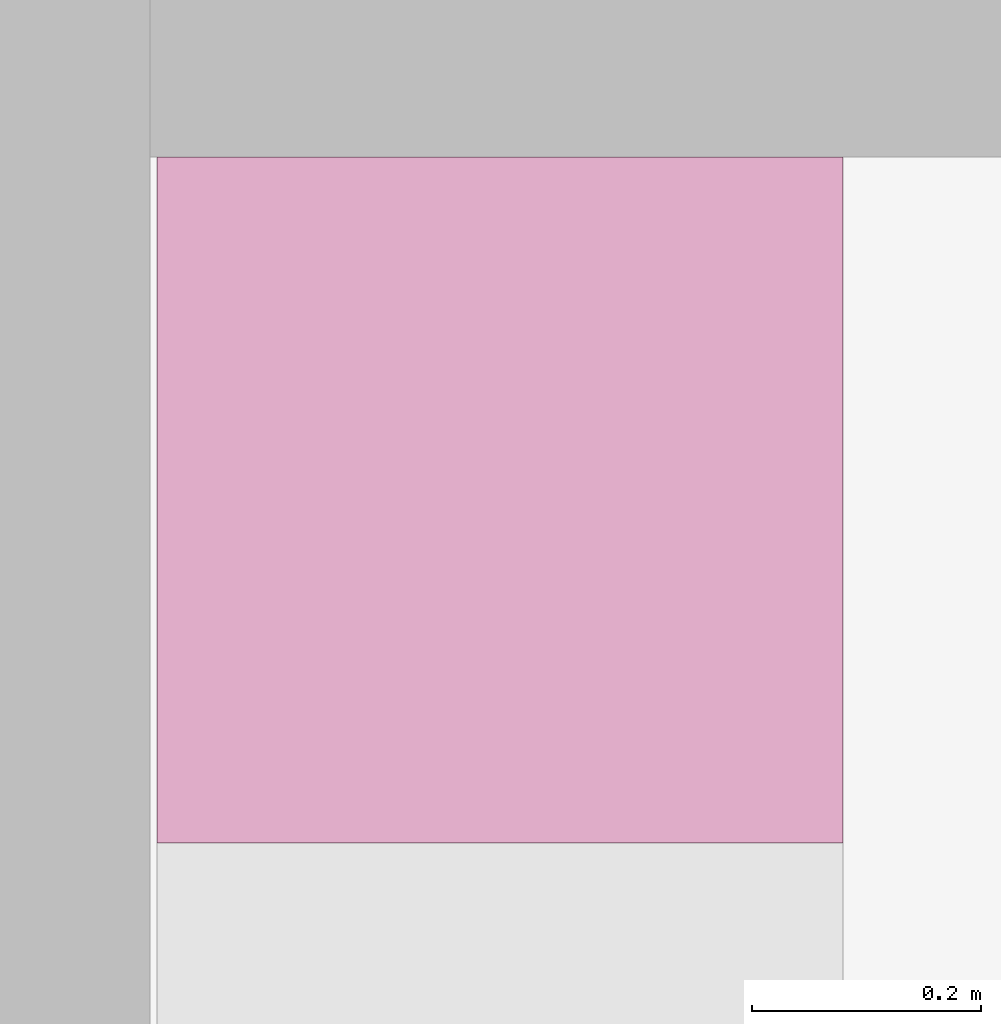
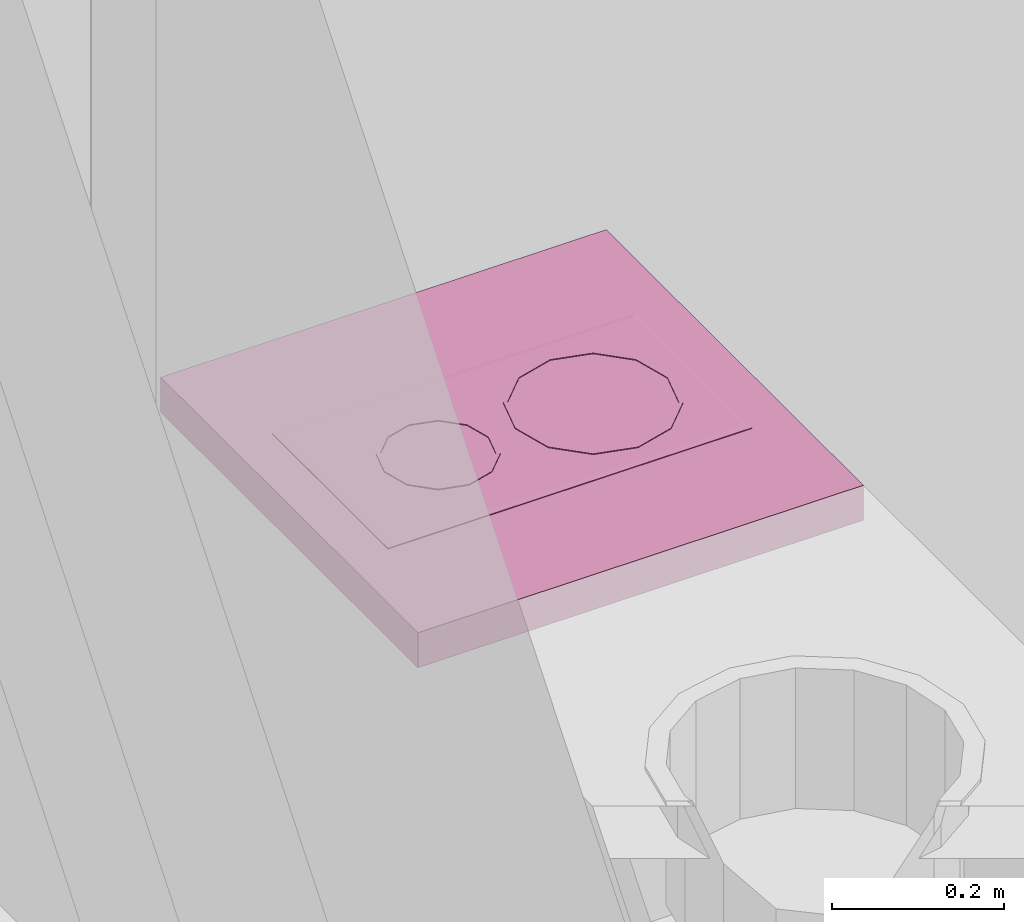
# One storey, part 161 of 172: 1 furnishing.
"""IFC2X3 building model written with IfcOpenShell, lengths in millimetres."""

from ifc_helpers import new_model, entity, si_unit, converted_unit, money_unit, direction, frame, origin_with_axes, place, context, subcontext, project, spatial, faceted_brep, source, transform, mapped, material, material_list, type_object, element, save


model = new_model("IFC2X3")

# Units and contexts
model_context = context("Model", 3, precision=1e-05, world=origin_with_axes(), true_north=direction((0.0, 1.0)))
body_context = subcontext(model_context, "Body", "Model", "MODEL_VIEW")
ifc_project = project(units=[si_unit("LENGTHUNIT", "METRE", prefix="MILLI"), si_unit("AREAUNIT", "SQUARE_METRE"), si_unit("VOLUMEUNIT", "CUBIC_METRE"), converted_unit("PLANEANGLEUNIT", "DEGREE", entity("IfcPlaneAngleMeasure", 0.0174532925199), si_unit("PLANEANGLEUNIT", "RADIAN"), dimensions=[0, 0, 0, 0, 0, 0, 0]), si_unit("SOLIDANGLEUNIT", "STERADIAN"), money_unit("USD"), converted_unit("TIMEUNIT", "Year", entity("IfcTimeMeasure", 31556926.0), si_unit("TIMEUNIT", "SECOND"), dimensions=[0, 0, 0, 0, 0, 0, 0]), si_unit("MASSUNIT", "GRAM"), si_unit("THERMODYNAMICTEMPERATUREUNIT", "DEGREE_CELSIUS"), si_unit("LUMINOUSINTENSITYUNIT", "LUMEN")], contexts=[model_context])

# Site, building, storey
site_placement = place(None, origin_with_axes())
site = spatial("IfcSite", under=ifc_project, at=site_placement, Name="Site", CompositionType="ELEMENT")
building_placement = place(site_placement, origin_with_axes())
building = spatial("IfcBuilding", under=site, at=building_placement, Name="Building", CompositionType="ELEMENT")
storey_placement = place(building_placement, frame((0.0, 0.0, 3200.0), z_axis=(0.0, 0.0, 1.0), x_axis=(1.0, 0.0, 0.0)))
storey = spatial("IfcBuildingStorey", under=building, at=storey_placement, Name="3KORRUS", CompositionType="ELEMENT", Elevation=3200.0)

# Furnishing
ifc_material = material(Name="Background")
ifc_material_list = material_list([ifc_material])
furnishing_element_type = type_object("IfcFurnishingElementType", Name="Built-in Cooktops 19")
shared_shape = source(origin_with_axes(), body_context, "Body", "Brep", [
    faceted_brep([(0.0, 0.0, 850.0), (0.0, 0.0, 900.0), (-600.0, 0.0, 900.0), (-600.0, 0.0, 850.0), (0.0, 600.0, 850.0), (0.0, 600.0, 900.0), (-600.0, 600.0, 900.0), (-600.0, 600.0, 850.0)], [[[0, 1, 2, 3]], [[4, 5, 1, 0]], [[1, 5, 6, 2]], [[3, 2, 6, 7]], [[0, 3, 7, 4]], [[7, 6, 5, 4]]]),
    faceted_brep([(-165.0, 55.0, 900.0), (-435.0, 55.0, 900.0), (-435.0, 545.0, 900.0), (-165.0, 545.0, 900.0), (-165.0, 55.0, 900.8), (-435.0, 55.0, 900.8), (-435.0, 545.0, 900.8), (-165.0, 545.0, 900.8), (-171.806, 61.806, 902.0), (-428.194, 61.806, 902.0), (-428.194, 538.194, 902.0), (-171.806, 538.194, 902.0)], [[[0, 1, 2, 3]], [[0, 4, 5, 1]], [[1, 5, 6, 2]], [[2, 6, 7, 3]], [[3, 7, 4, 0]], [[4, 8, 9, 5]], [[5, 9, 10, 6]], [[6, 10, 11, 7]], [[7, 11, 8, 4]], [[10, 9, 8, 11]]]),
    faceted_brep([(-195.0, 409.27, 902.0), (-195.0, 409.27, 903.0), (-209.067, 356.77, 903.0), (-209.067, 356.77, 902.0), (-209.067, 461.77, 902.0), (-209.067, 461.77, 903.0), (-247.5, 500.203, 903.0), (-300.0, 514.27, 903.0), (-352.5, 500.203, 903.0), (-390.933, 461.77, 903.0), (-405.0, 409.27, 903.0), (-390.933, 356.77, 903.0), (-352.5, 318.337, 903.0), (-300.0, 304.27, 903.0), (-247.5, 318.337, 903.0), (-200.0, 409.27, 903.0), (-213.397, 359.27, 903.0), (-250.0, 322.667, 903.0), (-300.0, 309.27, 903.0), (-350.0, 322.667, 903.0), (-386.603, 359.27, 903.0), (-400.0, 409.27, 903.0), (-386.603, 459.27, 903.0), (-350.0, 495.873, 903.0), (-300.0, 509.27, 903.0), (-250.0, 495.873, 903.0), (-213.397, 459.27, 903.0), (-247.5, 318.337, 902.0), (-300.0, 304.27, 902.0), (-352.5, 318.337, 902.0), (-390.933, 356.77, 902.0), (-405.0, 409.27, 902.0), (-390.933, 461.77, 902.0), (-352.5, 500.203, 902.0), (-300.0, 514.27, 902.0), (-247.5, 500.203, 902.0), (-200.0, 409.27, 902.0), (-213.397, 459.27, 902.0), (-250.0, 495.873, 902.0), (-300.0, 509.27, 902.0), (-350.0, 495.873, 902.0), (-386.603, 459.27, 902.0), (-400.0, 409.27, 902.0), (-386.603, 359.27, 902.0), (-350.0, 322.667, 902.0), (-300.0, 309.27, 902.0), (-250.0, 322.667, 902.0), (-213.397, 359.27, 902.0)], [[[0, 1, 2, 3]], [[4, 5, 1, 0]], [[1, 5, 6, 7, 8, 9, 10, 11, 12, 13, 14, 2], [15, 16, 17, 18, 19, 20, 21, 22, 23, 24, 25, 26]], [[3, 2, 14, 27]], [[0, 3, 27, 28, 29, 30, 31, 32, 33, 34, 35, 4], [36, 37, 38, 39, 40, 41, 42, 43, 44, 45, 46, 47]], [[35, 6, 5, 4]], [[34, 7, 6, 35]], [[33, 8, 7, 34]], [[32, 9, 8, 33]], [[31, 10, 9, 32]], [[30, 11, 10, 31]], [[29, 12, 11, 30]], [[28, 13, 12, 29]], [[27, 14, 13, 28]], [[47, 16, 15, 36]], [[46, 17, 16, 47]], [[45, 18, 17, 46]], [[44, 19, 18, 45]], [[43, 20, 19, 44]], [[42, 21, 20, 43]], [[41, 22, 21, 42]], [[40, 23, 22, 41]], [[39, 24, 23, 40]], [[38, 25, 24, 39]], [[37, 26, 25, 38]], [[36, 15, 26, 37]]]),
    faceted_brep([(-227.5, 200.53, 902.0), (-227.5, 200.53, 903.0), (-237.213, 164.28, 903.0), (-237.213, 164.28, 902.0), (-237.213, 236.78, 902.0), (-237.213, 236.78, 903.0), (-263.75, 263.317, 903.0), (-300.0, 273.03, 903.0), (-336.25, 263.317, 903.0), (-362.787, 236.78, 903.0), (-372.5, 200.53, 903.0), (-362.787, 164.28, 903.0), (-336.25, 137.743, 903.0), (-300.0, 128.03, 903.0), (-263.75, 137.743, 903.0), (-232.5, 200.53, 903.0), (-241.543, 166.78, 903.0), (-266.25, 142.073, 903.0), (-300.0, 133.03, 903.0), (-333.75, 142.073, 903.0), (-358.457, 166.78, 903.0), (-367.5, 200.53, 903.0), (-358.457, 234.28, 903.0), (-333.75, 258.987, 903.0), (-300.0, 268.03, 903.0), (-266.25, 258.987, 903.0), (-241.543, 234.28, 903.0), (-263.75, 137.743, 902.0), (-300.0, 128.03, 902.0), (-336.25, 137.743, 902.0), (-362.787, 164.28, 902.0), (-372.5, 200.53, 902.0), (-362.787, 236.78, 902.0), (-336.25, 263.317, 902.0), (-300.0, 273.03, 902.0), (-263.75, 263.317, 902.0), (-232.5, 200.53, 902.0), (-241.543, 234.28, 902.0), (-266.25, 258.987, 902.0), (-300.0, 268.03, 902.0), (-333.75, 258.987, 902.0), (-358.457, 234.28, 902.0), (-367.5, 200.53, 902.0), (-358.457, 166.78, 902.0), (-333.75, 142.073, 902.0), (-300.0, 133.03, 902.0), (-266.25, 142.073, 902.0), (-241.543, 166.78, 902.0)], [[[0, 1, 2, 3]], [[4, 5, 1, 0]], [[1, 5, 6, 7, 8, 9, 10, 11, 12, 13, 14, 2], [15, 16, 17, 18, 19, 20, 21, 22, 23, 24, 25, 26]], [[3, 2, 14, 27]], [[0, 3, 27, 28, 29, 30, 31, 32, 33, 34, 35, 4], [36, 37, 38, 39, 40, 41, 42, 43, 44, 45, 46, 47]], [[35, 6, 5, 4]], [[34, 7, 6, 35]], [[33, 8, 7, 34]], [[32, 9, 8, 33]], [[31, 10, 9, 32]], [[30, 11, 10, 31]], [[29, 12, 11, 30]], [[28, 13, 12, 29]], [[27, 14, 13, 28]], [[47, 16, 15, 36]], [[46, 17, 16, 47]], [[45, 18, 17, 46]], [[44, 19, 18, 45]], [[43, 20, 19, 44]], [[42, 21, 20, 43]], [[41, 22, 21, 42]], [[40, 23, 22, 41]], [[39, 24, 23, 40]], [[38, 25, 24, 39]], [[37, 26, 25, 38]], [[36, 15, 26, 37]]]),
])
furnishing_placement = place(storey_placement, frame((-23984.008308, -13789.2398994, 0.0), z_axis=(0.0, 0.0, 1.0), x_axis=(0.0, -1.0, 0.0)))
element("IfcFurnishingElement", 1, at=furnishing_placement, inside=storey, type_object=furnishing_element_type, material=ifc_material_list, Name="FU - 007", context=body_context, shape_type="MappedRepresentation", body=[
    mapped(shared_shape, transform((0.0, 0.0, 0.0))),
])

save(model, "model.ifc")
